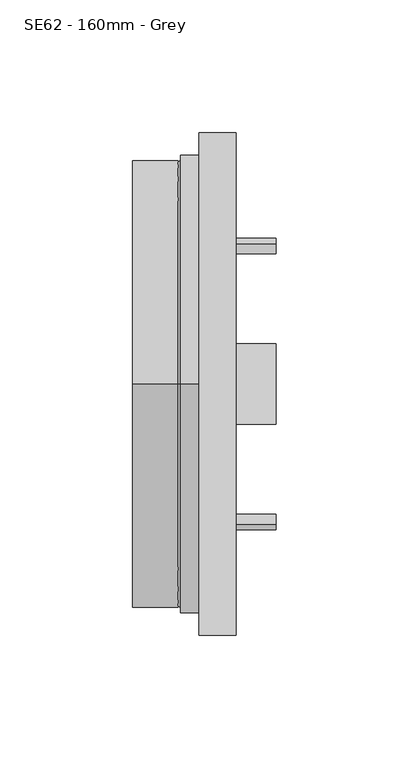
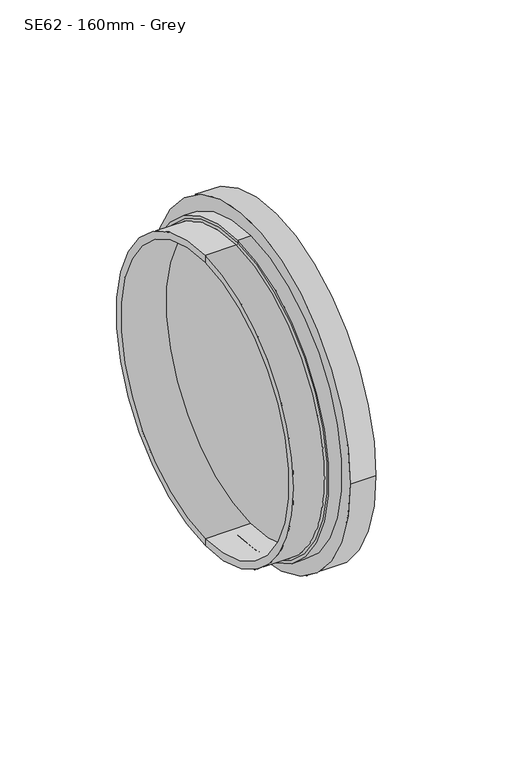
"""IFC4 building model written with IfcOpenShell, lengths in millimetres: pipe fitting geometry, MarleyPlumbingAndDrainage_PipeFitting_AccessCaps : SE62 - 160mm - Grey."""

import ifcopenshell
import ifcopenshell.guid

model = None  # the IFC model being written
_history = None  # IfcOwnerHistory: only IFC2X3 demands one
_inside = {}  # id of a spatial element -> (the spatial element, [elements in it])
_under = {}  # id of a project, library or spatial element -> (it, [spatial elements below it])
_declared = {}  # id of a project -> (the project, [libraries it declares])
_typed = {}  # id of a type object -> (the type object, [elements of that type])
_made_of = {}  # id of a material, layer set ... -> (it, [elements and type objects made of it])


def new_model(schema):
    """Start an empty IFC model of exactly this schema.

    Asked for "IFC4X3", IfcOpenShell would pick the latest addendum, in which some entities
    have other attributes; the version numbers below select the first issue.
    IFC2X3 requires an IfcOwnerHistory on every rooted entity: one is made here for all.
    """
    global model, _history
    if schema == "IFC4X3":
        model = ifcopenshell.file(schema_version=(4, 3, 0, 0))
    else:
        model = ifcopenshell.file(schema=schema)
    _inside.clear()
    _under.clear()
    _declared.clear()
    _typed.clear()
    _made_of.clear()
    _history = None
    if model.schema == "IFC2X3":
        org = make("IfcOrganization", Name="unknown")
        user = make(
            "IfcPersonAndOrganization",
            ThePerson=make("IfcPerson", FamilyName="unknown"),
            TheOrganization=org,
        )
        app = make(
            "IfcApplication",
            ApplicationDeveloper=org,
            Version="unknown",
            ApplicationFullName="unknown",
            ApplicationIdentifier="unknown",
        )
        _history = make(
            "IfcOwnerHistory",
            OwningUser=user,
            OwningApplication=app,
            ChangeAction="ADDED",
            CreationDate=0,
        )
    return model


def make(cls, **values):
    """One entity of the class cls with the attributes given. An attribute that is None is left unset."""
    return model.create_entity(
        cls, **{name: value for name, value in values.items() if value is not None}
    )


def rooted(cls, **values):
    """An entity with a GlobalId (a new one), such as an element, a storey or a relation."""
    return make(cls, GlobalId=ifcopenshell.guid.new(), OwnerHistory=_history, **values)


def si_unit(unit_type, name, prefix=None):
    """IfcSIUnit, for example si_unit("LENGTHUNIT", "METRE", prefix="MILLI")."""
    return make("IfcSIUnit", UnitType=unit_type, Prefix=prefix, Name=name)


def assignment(units):
    """IfcUnitAssignment: the units of a project."""
    return None if units is None else make("IfcUnitAssignment", Units=units)


def point(xyz):
    """IfcCartesianPoint."""
    return None if xyz is None else make("IfcCartesianPoint", Coordinates=xyz)


def direction(xyz):
    """IfcDirection."""
    return None if xyz is None else make("IfcDirection", DirectionRatios=xyz)


def frame(location, z_axis=None, x_axis=None):
    """IfcAxis2Placement3D, a coordinate frame: its origin and axes. An axis left out is left unset."""
    return make(
        "IfcAxis2Placement3D",
        Location=point(location),
        Axis=direction(z_axis),
        RefDirection=direction(x_axis),
    )


def frame_2d(location, x_axis=None):
    """IfcAxis2Placement2D, a coordinate frame in the plane: its origin and x axis."""
    return make(
        "IfcAxis2Placement2D", Location=point(location), RefDirection=direction(x_axis)
    )


def origin():
    """The frame at (0, 0, 0) with its axes left unset."""
    return frame((0.0, 0.0, 0.0))


def origin_2d():
    """The frame at (0, 0) in the plane with its x axis left unset."""
    return frame_2d((0.0, 0.0))


def place(relative_to, where):
    """IfcLocalPlacement: puts the frame where relative to a parent placement (None: the world)."""
    return make(
        "IfcLocalPlacement", PlacementRelTo=relative_to, RelativePlacement=where
    )


def context(
    kind, dimensions, precision=None, world=None, true_north=None, identifier=None
):
    """IfcGeometricRepresentationContext, for example the 3D "Model" context."""
    return make(
        "IfcGeometricRepresentationContext",
        ContextIdentifier=identifier,
        ContextType=kind,
        CoordinateSpaceDimension=dimensions,
        Precision=precision,
        WorldCoordinateSystem=world,
        TrueNorth=true_north,
    )


def project(units=None, contexts=None):
    """IfcProject with its units and contexts."""
    return rooted(
        "IfcProject",
        Name="project",
        RepresentationContexts=contexts,
        UnitsInContext=assignment(units),
    )


def spatial(cls, under=None, at=None, **own):
    """A site, building, storey or space (cls), placed at a placement, below another one or the project."""
    s = rooted(cls, ObjectPlacement=at, **own)
    if under is not None:
        _under.setdefault(under.id(), (under, []))[1].append(s)
    return s


def polyline(points):
    """IfcPolyline through the points."""
    return make("IfcPolyline", Points=[point(p) for p in points])


def circle_curve(where, radius):
    """IfcCircle in the frame where."""
    return make("IfcCircle", Position=where, Radius=radius)


def ellipse_curve(where, semi_axis1, semi_axis2):
    """IfcEllipse in the frame where."""
    return make(
        "IfcEllipse", Position=where, SemiAxis1=semi_axis1, SemiAxis2=semi_axis2
    )


def trimmed(basis, trim1, trim2, sense, master):
    """IfcTrimmedCurve: the piece of a basis curve between two trims."""
    return make(
        "IfcTrimmedCurve",
        BasisCurve=basis,
        Trim1=trim1,
        Trim2=trim2,
        SenseAgreement=sense,
        MasterRepresentation=master,
    )


def segment(curve, same_sense, transition):
    """IfcCompositeCurveSegment."""
    return make(
        "IfcCompositeCurveSegment",
        Transition=transition,
        SameSense=same_sense,
        ParentCurve=curve,
    )


def composite_curve(segments, self_intersect=None):
    """IfcCompositeCurve: segments joined end to end."""
    return make("IfcCompositeCurve", Segments=segments, SelfIntersect=self_intersect)


def outline(outer, holes=None, kind="AREA"):
    """IfcArbitraryClosedProfileDef: a profile drawn as a closed curve; with holes, ...WithVoids."""
    if holes is None:
        return make("IfcArbitraryClosedProfileDef", ProfileType=kind, OuterCurve=outer)
    return make(
        "IfcArbitraryProfileDefWithVoids",
        ProfileType=kind,
        OuterCurve=outer,
        InnerCurves=holes,
    )


def extrude(swept, where, along, depth):
    """IfcExtrudedAreaSolid: the profile swept, set in the frame where, extruded along a direction by depth."""
    return make(
        "IfcExtrudedAreaSolid",
        SweptArea=swept,
        Position=where,
        ExtrudedDirection=direction(along),
        Depth=depth,
    )


def shape(context_of_items, identifier, shape_type, items):
    """IfcShapeRepresentation: the items that make up one representation, for example the "Body"."""
    return make(
        "IfcShapeRepresentation",
        ContextOfItems=context_of_items,
        RepresentationIdentifier=identifier,
        RepresentationType=shape_type,
        Items=items,
    )


def source(mapping_origin, context_of_items, identifier, shape_type, items):
    """IfcRepresentationMap: a shape defined once, which mapped items show again and again."""
    return make(
        "IfcRepresentationMap",
        MappingOrigin=mapping_origin,
        MappedRepresentation=shape(context_of_items, identifier, shape_type, items),
    )


def transform(
    local_origin,
    x_axis=None,
    y_axis=None,
    z_axis=None,
    scale=None,
    scale2=None,
    scale3=None,
    uniform=True,
):
    """IfcCartesianTransformationOperator3D, or its non-uniform kind. x_axis, y_axis, z_axis: its Axis1, 2, 3."""
    if uniform:
        return make(
            "IfcCartesianTransformationOperator3D",
            Axis1=direction(x_axis),
            Axis2=direction(y_axis),
            LocalOrigin=point(local_origin),
            Scale=scale,
            Axis3=direction(z_axis),
        )
    return make(
        "IfcCartesianTransformationOperator3DnonUniform",
        Axis1=direction(x_axis),
        Axis2=direction(y_axis),
        LocalOrigin=point(local_origin),
        Scale=scale,
        Axis3=direction(z_axis),
        Scale2=scale2,
        Scale3=scale3,
    )


def mapped(mapping_source, mapping_target):
    """IfcMappedItem: shows the shape of a source again, moved by a transform."""
    return make(
        "IfcMappedItem", MappingSource=mapping_source, MappingTarget=mapping_target
    )


def made_of(thing, what):
    """Note that an element or type object is made of a material, layer set ...; save() writes the relation."""
    if what is not None:
        _made_of.setdefault(what.id(), (what, []))[1].append(thing)
    return thing


def element(
    cls,
    number,
    at=None,
    inside=None,
    cuts=None,
    type_object=None,
    material=None,
    context=None,
    identifier="Body",
    shape_type=None,
    held_by="IfcProductDefinitionShape",
    body=None,
    shapes=None,
    **own,
):
    """One element of the class cls, such as IfcWall. Its Tag is "e" and its number.

    at: its placement. inside: the storey or other place that contains it. cuts: it is an
    opening in that element (IfcRelVoidsElement). A single representation is given by context,
    identifier, shape_type and body (its items); several are given by shapes. held_by: the class
    of the entity that holds the representations. save() writes the other relations.
    """
    e = rooted(cls, Tag="e%d" % number, ObjectPlacement=at, **own)
    if body is not None:
        shapes = [shape(context, identifier, shape_type, body)]
    if shapes is not None:
        e.Representation = make(held_by, Representations=shapes)
    if inside is not None:
        _inside.setdefault(inside.id(), (inside, []))[1].append(e)
    if cuts is not None:
        rooted(
            "IfcRelVoidsElement", RelatingBuildingElement=cuts, RelatedOpeningElement=e
        )
    if type_object is not None:
        _typed.setdefault(type_object.id(), (type_object, []))[1].append(e)
    return made_of(e, material)


def aggregate(whole, parts):
    """IfcRelAggregates: a whole, such as a stair, and the parts it consists of."""
    return rooted("IfcRelAggregates", RelatingObject=whole, RelatedObjects=parts)


def save(model, path):
    """Write the relations noted so far, then the file.

    IfcRelAggregates (storeys below a building ...), IfcRelContainedInSpatialStructure (elements
    in a storey), IfcRelDefinesByType, IfcRelAssociatesMaterial and IfcRelDeclares: one each for
    every whole, place, type object, material and project.
    """
    for whole, parts in _under.values():
        aggregate(whole, parts)
    for where, things in _inside.values():
        rooted(
            "IfcRelContainedInSpatialStructure",
            RelatedElements=things,
            RelatingStructure=where,
        )
    for kind, things in _typed.values():
        rooted("IfcRelDefinesByType", RelatedObjects=things, RelatingType=kind)
    for what, things in _made_of.values():
        rooted("IfcRelAssociatesMaterial", RelatedObjects=things, RelatingMaterial=what)
    for by, libraries in _declared.values():
        rooted("IfcRelDeclares", RelatingContext=by, RelatedDefinitions=libraries)
    model.write(path)


def plane_surface(at):
    """IfcPlane: the flat surface through the origin of the frame at, square to its z axis."""
    return make("IfcPlane", Position=at)


def cylinder_surface(at, radius):
    """IfcCylindricalSurface: all points at the distance radius from the z axis of the frame at."""
    return make("IfcCylindricalSurface", Position=at, Radius=radius)


def revolved_surface(curve, axis_point, axis_direction):
    """IfcSurfaceOfRevolution: the curve turned about the line through axis_point along axis_direction."""
    return make(
        "IfcSurfaceOfRevolution",
        SweptCurve=make("IfcArbitraryOpenProfileDef", ProfileType="CURVE", Curve=curve),
        AxisPosition=make("IfcAxis1Placement", Location=point(axis_point), Axis=direction(axis_direction)),
    )


def advanced_brep(points, edges, surfaces, faces):
    """IfcAdvancedBrep: a solid bounded by faces that lie on surfaces and meet in shared edges.

    An edge is (start, end): straight between two places in points (the first is 0);
    or (start, end, curve); or (start, end, curve, False) where it runs against its curve.
    A face is (place in surfaces, loops), or (place, loops, False) where it looks against
    its surface's normal. A loop lists edges by number (the first is 1), with a minus sign
    where the edge is run from its end to its start. The first loop is the outer one.
    """
    corners = [point(p) for p in points]
    vertices = [make("IfcVertexPoint", VertexGeometry=c) for c in corners]
    made = []
    for start, end, *more in edges:
        made.append(
            make(
                "IfcEdgeCurve",
                EdgeStart=vertices[start],
                EdgeEnd=vertices[end],
                EdgeGeometry=more[0] if more else make("IfcPolyline", Points=[corners[start], corners[end]]),
                SameSense=more[1] if len(more) > 1 else True,
            )
        )
    hull = []
    for where, loops, *sense in faces:
        bounds = []
        for j, loop in enumerate(loops):
            ring = [make("IfcOrientedEdge", EdgeElement=made[abs(k) - 1], Orientation=k > 0) for k in loop]
            bounds.append(
                make(
                    "IfcFaceOuterBound" if j == 0 else "IfcFaceBound",
                    Bound=make("IfcEdgeLoop", EdgeList=ring),
                    Orientation=True,
                )
            )
        hull.append(make("IfcAdvancedFace", Bounds=bounds, FaceSurface=surfaces[where], SameSense=sense[0] if sense else True))
    return make("IfcAdvancedBrep", Outer=make("IfcClosedShell", CfsFaces=hull))


def se62_160mm_grey_2d04aa3b(model_context):
    return source(origin(), model_context, "Body", "SolidModel", [
        advanced_brep(
        [(-316.6858175, -94.5, 0.0), (-316.6858175, 94.5, 0.0), (-316.6858175, -34.6328506, -83.6110977), (-316.6858175, -33.1021169, -79.9155796), (-316.6858175, 33.1021169, -79.9155796), (-316.6858175, 34.6328506, -83.6110977), (-316.6858175, 83.6110977, -34.6328506), (-316.6858175, 79.9155796, -33.1021169), (-316.6858175, 79.9155796, 33.1021169), (-316.6858175, 83.6110977, 34.6328506), (-316.6858175, -79.9155796, 33.1021169), (-316.6858175, -79.9155796, -33.1021169), (-316.6858175, -83.6110977, -34.6328506), (-316.6858175, -83.6110977, 34.6328506), (-316.6858175, -33.1021169, 79.9155796), (-316.6858175, -34.6328506, 83.6110977), (-316.6858175, 34.6328506, 83.6110977), (-316.6858175, 33.1021169, 79.9155796), (-330.6858175, -94.5, 0.0), (-330.6858175, 94.5, 0.0), (-330.6858175, 0.0, -86.5), (-330.6858175, 0.0, 86.5), (-330.6858175, 0.0, 80.0), (-330.6858175, 0.0, -80.0), (-323.3925353, -33.1021169, -79.9155796), (-323.3925353, -34.6328506, -83.6110977), (-323.3925353, 34.6328506, -83.6110977), (-323.3925353, 33.1021169, -79.9155796), (-323.3925353, 79.9155796, -33.1021169), (-323.3925353, 83.6110977, -34.6328506), (-323.3925353, 83.6110977, 34.6328506), (-323.3925353, 79.9155796, 33.1021169), (-323.3925353, -79.9155796, -33.1021169), (-323.3925353, -79.9155796, 33.1021169), (-323.3925353, -83.6110977, 34.6328506), (-323.3925353, -83.6110977, -34.6328506), (-323.3925353, -34.6328506, 83.6110977), (-323.3925353, -33.1021169, 79.9155796), (-323.3925353, 33.1021169, 79.9155796), (-323.3925353, 34.6328506, 83.6110977), (-337.6858175, 0.0, -86.5), (-337.6858175, 0.0, 86.5), (-337.6858175, 0.0, -85.0), (-337.6858175, 0.0, 85.0), (-338.6858175, 0.0, -84.0), (-338.6858175, 0.0, 84.0), (-355.6858175, 0.0, -84.0), (-355.6858175, 0.0, 84.0), (-355.6858175, 0.0, -80.0), (-355.6858175, 0.0, 80.0)],
        [
            (0, 1, circle_curve(frame((-316.6858175, 0.0, 0.0), z_axis=(1.0, 0.0, 0.0), x_axis=(0.0, 1.0, 0.0)), 94.5)),
            (1, 0, circle_curve(frame((-316.6858175, 0.0, 0.0), z_axis=(1.0, 0.0, 0.0), x_axis=(0.0, 1.0, 0.0)), 94.5)),
            (2, 3),
            (3, 4, circle_curve(frame((-316.6858175, 0.0, 0.0), z_axis=(1.0, 0.0, 0.0), x_axis=(0.0, 1.0, 0.0)), 86.5)),
            (4, 5),
            (5, 2, circle_curve(frame((-316.6858175, 0.0, 0.0), z_axis=(-1.0, 0.0, 0.0), x_axis=(0.0, 1.0, 0.0)), 90.5)),
            (6, 7),
            (7, 8, circle_curve(frame((-316.6858175, 0.0, 0.0), z_axis=(1.0, 0.0, 0.0), x_axis=(0.0, 1.0, 0.0)), 86.5)),
            (8, 9),
            (9, 6, circle_curve(frame((-316.6858175, 0.0, 0.0), z_axis=(-1.0, 0.0, 0.0), x_axis=(0.0, 1.0, 0.0)), 90.5)),
            (10, 11, circle_curve(frame((-316.6858175, 0.0, 0.0), z_axis=(1.0, 0.0, 0.0), x_axis=(0.0, 1.0, 0.0)), 86.5)),
            (11, 12),
            (12, 13, circle_curve(frame((-316.6858175, 0.0, 0.0), z_axis=(-1.0, 0.0, 0.0), x_axis=(0.0, 1.0, 0.0)), 90.5)),
            (13, 10),
            (14, 15),
            (15, 16, circle_curve(frame((-316.6858175, 0.0, 0.0), z_axis=(-1.0, 0.0, 0.0), x_axis=(0.0, 1.0, 0.0)), 90.5)),
            (16, 17),
            (17, 14, circle_curve(frame((-316.6858175, 0.0, 0.0), z_axis=(1.0, 0.0, 0.0), x_axis=(0.0, 1.0, 0.0)), 86.5)),
            (18, 19, circle_curve(frame((-330.6858175, 0.0, 0.0), z_axis=(-1.0, 0.0, 0.0), x_axis=(0.0, 1.0, 0.0)), 94.5)),
            (19, 18, circle_curve(frame((-330.6858175, 0.0, 0.0), z_axis=(-1.0, 0.0, 0.0), x_axis=(0.0, 1.0, 0.0)), 94.5)),
            (20, 21, circle_curve(frame((-330.6858175, 0.0, 0.0), z_axis=(1.0, 0.0, 0.0), x_axis=(0.0, 0.0, 1.0)), 86.5)),
            (21, 20, circle_curve(frame((-330.6858175, 0.0, 0.0), z_axis=(1.0, 0.0, 0.0), x_axis=(0.0, 0.0, 1.0)), 86.5)),
            (22, 23, circle_curve(frame((-330.6858175, 0.0, 0.0), z_axis=(-1.0, 0.0, 0.0), x_axis=(0.0, 0.0, 1.0)), 80.0)),
            (23, 22, circle_curve(frame((-330.6858175, 0.0, 0.0), z_axis=(-1.0, 0.0, 0.0), x_axis=(0.0, 0.0, 1.0)), 80.0)),
            (0, 18),
            (19, 1),
            (24, 25),
            (25, 26, circle_curve(frame((-323.3925353, 0.0, 0.0), z_axis=(1.0, 0.0, 0.0), x_axis=(0.0, 1.0, 0.0)), 90.5)),
            (26, 27),
            (27, 24, circle_curve(frame((-323.3925353, 0.0, 0.0), z_axis=(-1.0, 0.0, 0.0), x_axis=(0.0, 1.0, 0.0)), 86.5)),
            (28, 29),
            (29, 30, circle_curve(frame((-323.3925353, 0.0, 0.0), z_axis=(1.0, 0.0, 0.0), x_axis=(0.0, 1.0, 0.0)), 90.5)),
            (30, 31),
            (31, 28, circle_curve(frame((-323.3925353, 0.0, 0.0), z_axis=(-1.0, 0.0, 0.0), x_axis=(0.0, 1.0, 0.0)), 86.5)),
            (32, 33, circle_curve(frame((-323.3925353, 0.0, 0.0), z_axis=(-1.0, 0.0, 0.0), x_axis=(0.0, 1.0, 0.0)), 86.5)),
            (33, 34),
            (34, 35, circle_curve(frame((-323.3925353, 0.0, 0.0), z_axis=(1.0, 0.0, 0.0), x_axis=(0.0, 1.0, 0.0)), 90.5)),
            (35, 32),
            (36, 37),
            (37, 38, circle_curve(frame((-323.3925353, 0.0, 0.0), z_axis=(-1.0, 0.0, 0.0), x_axis=(0.0, 1.0, 0.0)), 86.5)),
            (38, 39),
            (39, 36, circle_curve(frame((-323.3925353, 0.0, 0.0), z_axis=(1.0, 0.0, 0.0), x_axis=(0.0, 1.0, 0.0)), 90.5)),
            (24, 3),
            (2, 25),
            (5, 26),
            (4, 27),
            (28, 7),
            (6, 29),
            (9, 30),
            (8, 31),
            (32, 11),
            (10, 33),
            (13, 34),
            (12, 35),
            (36, 15),
            (14, 37),
            (17, 38),
            (16, 39),
            (40, 41, circle_curve(frame((-337.6858175, 0.0, 0.0), z_axis=(1.0, 0.0, 0.0), x_axis=(0.0, 0.0, 1.0)), 86.5)),
            (41, 21),
            (20, 40),
            (41, 40, circle_curve(frame((-337.6858175, 0.0, 0.0), z_axis=(1.0, 0.0, 0.0), x_axis=(0.0, 0.0, 1.0)), 86.5)),
            (40, 42),
            (42, 43, circle_curve(frame((-337.6858175, 0.0, 0.0), z_axis=(1.0, 0.0, 0.0), x_axis=(0.0, 0.0, 1.0)), 85.0)),
            (43, 41),
            (43, 42, circle_curve(frame((-337.6858175, 0.0, 0.0), z_axis=(1.0, 0.0, 0.0), x_axis=(0.0, 0.0, 1.0)), 85.0)),
            (42, 44, circle_curve(frame((-338.6858175, 0.0, -85.0), z_axis=(0.0, -1.0, 0.0), x_axis=(1.0, 0.0, 0.0)), 1.0)),
            (44, 45, circle_curve(frame((-338.6858175, 0.0, 0.0), z_axis=(1.0, 0.0, 0.0), x_axis=(0.0, 0.0, 1.0)), 84.0)),
            (45, 43, circle_curve(frame((-338.6858175, 0.0, 85.0), z_axis=(0.0, -1.0, 0.0), x_axis=(1.0, 0.0, 0.0)), 1.0)),
            (45, 44, circle_curve(frame((-338.6858175, 0.0, 0.0), z_axis=(1.0, 0.0, 0.0), x_axis=(0.0, 0.0, 1.0)), 84.0)),
            (44, 46),
            (46, 47, circle_curve(frame((-355.6858175, 0.0, 0.0), z_axis=(1.0, 0.0, 0.0), x_axis=(0.0, 0.0, 1.0)), 84.0)),
            (47, 45),
            (47, 46, circle_curve(frame((-355.6858175, 0.0, 0.0), z_axis=(1.0, 0.0, 0.0), x_axis=(0.0, 0.0, 1.0)), 84.0)),
            (46, 48),
            (48, 49, circle_curve(frame((-355.6858175, 0.0, 0.0), z_axis=(1.0, 0.0, 0.0), x_axis=(0.0, 0.0, 1.0)), 80.0)),
            (49, 47),
            (49, 48, circle_curve(frame((-355.6858175, 0.0, 0.0), z_axis=(1.0, 0.0, 0.0), x_axis=(0.0, 0.0, 1.0)), 80.0)),
            (48, 23),
            (22, 49),
        ],
        [
            plane_surface(frame((-316.6858175, 94.5, 0.0), z_axis=(1.0, 0.0, 0.0), x_axis=(0.0, 0.0, 1.0))),
            plane_surface(frame((-330.6858175, 94.5, 0.0), z_axis=(-1.0, 0.0, 0.0), x_axis=(0.0, 0.0, -1.0))),
            cylinder_surface(frame((-330.6858175, 0.0, 0.0), z_axis=(1.0, 0.0, 0.0), x_axis=(0.0, 1.0, 0.0)), 94.5),
            plane_surface(frame((-323.3925353, -34.6328506, -83.6110977), z_axis=(1.0000000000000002, 0.0, 0.0), x_axis=(0.0, 0.3826834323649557, 0.9238795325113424))),
            plane_surface(frame((-316.6858175, -33.1021169, -79.9155796), z_axis=(0.0, 0.9238795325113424, -0.3826834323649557), x_axis=(-1.0, 0.0, 0.0))),
            revolved_surface(polyline([(-316.6858175, 90.5, 0.0), (-323.3925353, 90.5, 0.0)]), (-323.3925353, 0.0, 0.0), (1.0, 0.0, 0.0)),
            plane_surface(frame((-316.6858175, 34.6328506, -83.6110977), z_axis=(0.0, -0.9238795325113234, -0.38268343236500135), x_axis=(-1.0, 0.0, 0.0))),
            cylinder_surface(frame((-323.3925353, 0.0, 0.0), z_axis=(-1.0, 0.0, 0.0), x_axis=(0.0, 1.0, 0.0)), 86.5),
            plane_surface(frame((-316.6858175, 79.9155796, -33.1021169), z_axis=(0.0, 0.3826834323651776, 0.9238795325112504), x_axis=(-1.0, 0.0, 0.0))),
            revolved_surface(polyline([(-316.6858175, 90.5, 0.0), (-323.3925353, 90.5, 0.0)]), (-330.6858175, 0.0, 0.0), (1.0, 0.0, 0.0)),
            plane_surface(frame((-316.6858175, 83.6110977, 34.6328506), z_axis=(0.0, 0.3826834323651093, -0.9238795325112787), x_axis=(-1.0, 0.0, 0.0))),
            cylinder_surface(frame((-330.6858175, 0.0, 0.0), z_axis=(-1.0, 0.0, 0.0), x_axis=(0.0, 1.0, 0.0)), 86.5),
            plane_surface(frame((-316.6858175, -79.9155796, 33.1021169), z_axis=(0.0, -0.38268343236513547, -0.9238795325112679), x_axis=(-1.0, 0.0, 0.0))),
            plane_surface(frame((-316.6858175, -83.6110977, -34.6328506), z_axis=(0.0, -0.3826834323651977, 0.9238795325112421), x_axis=(-1.0, 0.0, 0.0))),
            plane_surface(frame((-316.6858175, -34.6328506, 83.6110977), z_axis=(0.0, 0.9238795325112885, 0.38268343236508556), x_axis=(-1.0, 0.0, 0.0))),
            plane_surface(frame((-316.6858175, 33.1021169, 79.9155796), z_axis=(0.0, -0.9238795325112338, 0.38268343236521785), x_axis=(-1.0, 0.0, 0.0))),
            cylinder_surface(frame((-1514.0299635, 0.0, 0.0), z_axis=(-1.0, 0.0, 0.0), x_axis=(0.0, 0.0, 1.0)), 86.5),
            plane_surface(frame((-337.6858175, 0.0, 0.0), z_axis=(-1.0, 0.0, 0.0), x_axis=(0.0, 0.0, 1.0))),
            revolved_surface(trimmed(ellipse_curve(frame((-338.6858175, 0.0, 85.0), z_axis=(0.0, 1.0, 0.0), x_axis=(1.0, 0.0, 0.0)), 1.0, 1.0), [point((-337.6858175, 0.0, 85.0))], [point((-338.6858175, 0.0, 84.0))], True, "CARTESIAN"), (-1514.0299635, 0.0, 0.0), (-1.0, 0.0, 0.0)),
            cylinder_surface(frame((-1514.0299635, 0.0, 0.0), z_axis=(-1.0, 0.0, 0.0), x_axis=(0.0, 0.0, 1.0)), 84.0),
            plane_surface(frame((-355.6858175, 0.0, 0.0), z_axis=(-1.0, 0.0, 0.0), x_axis=(0.0, 0.0, 1.0))),
            revolved_surface(polyline([(-355.6858175, 0.0, 80.0), (-330.6858175, 0.0, 80.0)]), (-1514.0299635, 0.0, 0.0), (-1.0, 0.0, 0.0)),
        ],
        [
            (0, [[1, 2], [3, 4, 5, 6], [7, 8, 9, 10], [11, 12, 13, 14], [15, 16, 17, 18]]),
            (1, [[19, 20], [21, 22]]),
            (1, [[23, 24]]),
            (2, [[-1, 25, -20, 26]]),
            (2, [[-2, -26, -19, -25]]),
            (3, [[27, 28, 29, 30]]),
            (3, [[31, 32, 33, 34]]),
            (3, [[35, 36, 37, 38]]),
            (3, [[39, 40, 41, 42]]),
            (4, [[-27, 43, -3, 44]]),
            (5, [[-28, -44, -6, 45]]),
            (6, [[-29, -45, -5, 46]]),
            (7, [[-30, -46, -4, -43]]),
            (8, [[-31, 47, -7, 48]]),
            (9, [[-32, -48, -10, 49]]),
            (10, [[-33, -49, -9, 50]]),
            (11, [[-34, -50, -8, -47]]),
            (11, [[-35, 51, -11, 52]]),
            (12, [[-36, -52, -14, 53]]),
            (9, [[-37, -53, -13, 54]]),
            (13, [[-38, -54, -12, -51]]),
            (14, [[-39, 55, -15, 56]]),
            (11, [[-40, -56, -18, 57]]),
            (15, [[-41, -57, -17, 58]]),
            (9, [[-42, -58, -16, -55]]),
            (16, [[59, 60, -21, 61]]),
            (16, [[-60, 62, -61, -22]]),
            (17, [[-59, 63, 64, 65]]),
            (17, [[-62, -65, 66, -63]]),
            (18, [[-64, 67, 68, 69]]),
            (18, [[-66, -69, 70, -67]]),
            (19, [[-68, 71, 72, 73]]),
            (19, [[-70, -73, 74, -71]]),
            (20, [[-72, 75, 76, 77]]),
            (20, [[-74, -77, 78, -75]]),
            (21, [[-76, 79, -23, 80]]),
            (21, [[-78, -80, -24, -79]]),
        ],
    ),
        extrude(outline(composite_curve([segment(trimmed(circle_curve(origin_2d(), 51.0), [point((14.0575051, 49.0243465))], [point((-14.0575051, 49.0243465))], True, "CARTESIAN"), True, "CONTINUOUS"), segment(polyline([(-14.0575051, 49.0243465), (-15.1600546, 52.8693933)]), True, "CONTINUOUS"), segment(trimmed(circle_curve(origin_2d(), 55.0), [point((-15.1600546, 52.8693933))], [point((15.1600546, 52.8693933))], False, "CARTESIAN"), True, "CONTINUOUS"), segment(polyline([(15.1600546, 52.8693933), (14.0575051, 49.0243465)]), True, "CONTINUOUS")], self_intersect=False)), frame((-316.6858175, 0.0, 0.0), z_axis=(1.0, 0.0, 0.0), x_axis=(0.0, 1.0, 0.0)), (0.0, 0.0, 1.0), 15.0),
        extrude(outline(composite_curve([segment(trimmed(circle_curve(origin_2d(), 51.0), [point((-49.0243465, 14.0575051))], [point((-49.0243465, -14.0575051))], True, "CARTESIAN"), True, "CONTINUOUS"), segment(polyline([(-49.0243465, -14.0575051), (-52.8693933, -15.1600546)]), True, "CONTINUOUS"), segment(trimmed(circle_curve(origin_2d(), 55.0), [point((-52.8693933, -15.1600546))], [point((-52.8693933, 15.1600546))], False, "CARTESIAN"), True, "CONTINUOUS"), segment(polyline([(-52.8693933, 15.1600546), (-49.0243465, 14.0575051)]), True, "CONTINUOUS")], self_intersect=False)), frame((-316.6858175, 0.0, 0.0), z_axis=(1.0, 0.0, 0.0), x_axis=(0.0, 1.0, 0.0)), (0.0, 0.0, 1.0), 15.0),
        extrude(outline(composite_curve([segment(polyline([(49.0243465, 14.0575051), (52.8693933, 15.1600546)]), True, "CONTINUOUS"), segment(trimmed(circle_curve(origin_2d(), 55.0), [point((52.8693933, 15.1600546))], [point((52.8693933, -15.1600546))], False, "CARTESIAN"), True, "CONTINUOUS"), segment(polyline([(52.8693933, -15.1600546), (49.0243465, -14.0575051)]), True, "CONTINUOUS"), segment(trimmed(circle_curve(origin_2d(), 51.0), [point((49.0243465, -14.0575051))], [point((49.0243465, 14.0575051))], True, "CARTESIAN"), True, "CONTINUOUS")], self_intersect=False)), frame((-316.6858175, 0.0, 0.0), z_axis=(1.0, 0.0, 0.0), x_axis=(0.0, 1.0, 0.0)), (0.0, 0.0, 1.0), 15.0),
        extrude(outline(composite_curve([segment(trimmed(circle_curve(origin_2d(), 55.0), [point((15.1600546, -52.8693933))], [point((-15.1600546, -52.8693933))], False, "CARTESIAN"), True, "CONTINUOUS"), segment(polyline([(-15.1600546, -52.8693933), (-14.0575051, -49.0243465)]), True, "CONTINUOUS"), segment(trimmed(circle_curve(origin_2d(), 51.0), [point((-14.0575051, -49.0243465))], [point((14.0575051, -49.0243465))], True, "CARTESIAN"), True, "CONTINUOUS"), segment(polyline([(14.0575051, -49.0243465), (15.1600546, -52.8693933)]), True, "CONTINUOUS")], self_intersect=False)), frame((-316.6858175, 0.0, 0.0), z_axis=(1.0, 0.0, 0.0), x_axis=(0.0, 1.0, 0.0)), (0.0, 0.0, 1.0), 15.0),
    ])


if __name__ == "__main__":
    model = new_model("IFC4")
    model_context = context("Model", 3, world=origin())
    ifc_project = project(units=[si_unit("LENGTHUNIT", "METRE", prefix="MILLI")], contexts=[model_context])
    site = spatial("IfcSite", under=ifc_project)
    building = spatial("IfcBuilding", under=site)
    placement = place(None, origin())
    se62_160mm_grey_shape = se62_160mm_grey_2d04aa3b(model_context)
    element("IfcPipeFitting", 1, ObjectType="MarleyPlumbingAndDrainage_PipeFitting_AccessCaps : SE62 - 160mm - Grey", at=placement, inside=building, context=model_context, shape_type="MappedRepresentation", body=[
        mapped(se62_160mm_grey_shape, transform((0.0, 0.0, 0.0), x_axis=(1.0, 0.0, 0.0), y_axis=(0.0, 1.0, 0.0), z_axis=(0.0, 0.0, 1.0))),
    ])
    save(model, "model.ifc")
